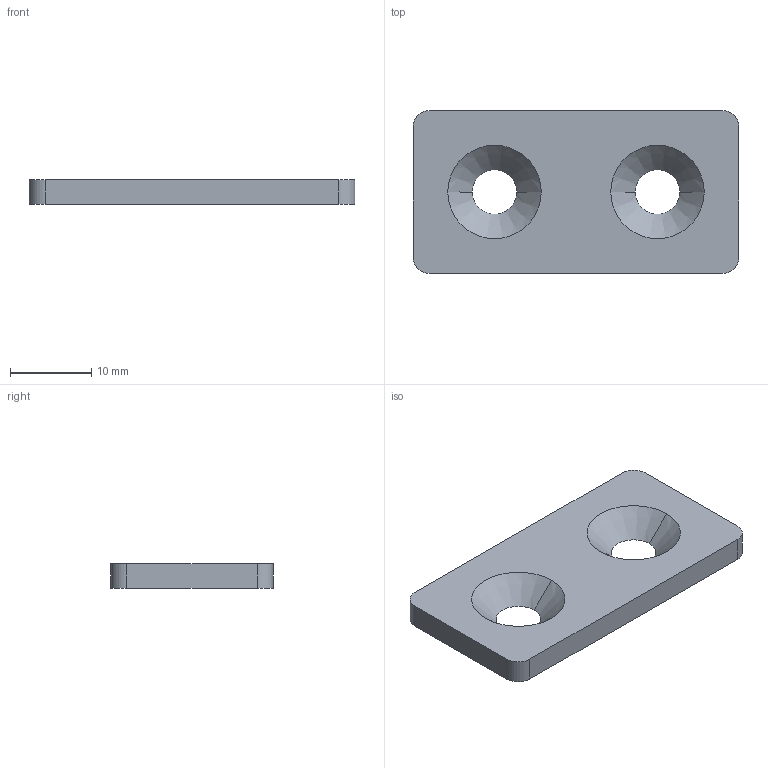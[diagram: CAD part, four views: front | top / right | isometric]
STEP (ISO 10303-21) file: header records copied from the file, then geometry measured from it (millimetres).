
FILE_DESCRIPTION (( 'STEP AP203' ), '1' );
FILE_NAME ('0105LCH20.STEP', '2024-09-03T07:26:12', ( 'Windows-Benutzer' ), ( '' ), 'SwSTEP 2.0', 'SolidWorks 2024', '' );
FILE_SCHEMA (( 'CONFIG_CONTROL_DESIGN' ));
Length unit declared in the file: millimetre
Products named in the file (1): 0105LCH20
Bounding box: 40 x 20 x 3 mm (x, y, z)
Volume: 2037.5 mm3; surface area: 1915 mm2
Topology: 1 solids, 1 shells, 14 faces, 36 edges, 24 vertices
Faces by surface type: plane 6, cone 4, cylinder 4
Entity records: 521 total; most frequent: DIRECTION 82, CARTESIAN_POINT 75, ORIENTED_EDGE 72, EDGE_CURVE 36, AXIS2_PLACEMENT_3D 31, VERTEX_POINT 24, VECTOR 20, LINE 20
